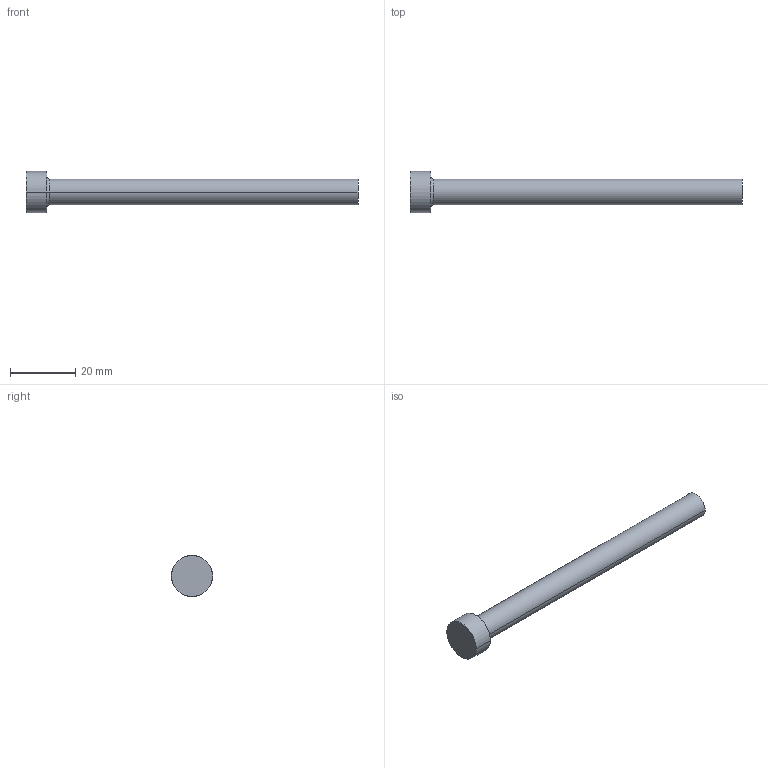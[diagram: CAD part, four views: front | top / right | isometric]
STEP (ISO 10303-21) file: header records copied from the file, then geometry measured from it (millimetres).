
FILE_DESCRIPTION (( 'STEP AP214' ), '1' );
FILE_NAME ('P21-4.STEP', '2020-03-12T09:25:42', ( '' ), ( '' ), 'SwSTEP 2.0', 'SolidWorks 2018', '' );
FILE_SCHEMA (( 'AUTOMOTIVE_DESIGN' ));
Length unit declared in the file: inch
Products named in the file (1): P21-4
Bounding box: 101.6 x 12.7 x 12.7 mm (x, y, z)
Volume: 5511.5 mm3; surface area: 2867 mm2
Topology: 1 solids, 1 shells, 13 faces, 24 edges, 14 vertices
Faces by surface type: cone 4, cylinder 4, plane 3, torus 2
Entity records: 366 total; most frequent: DIRECTION 68, CARTESIAN_POINT 52, ORIENTED_EDGE 48, AXIS2_PLACEMENT_3D 30, EDGE_CURVE 24, CIRCLE 16, VERTEX_POINT 14, EDGE_LOOP 14
